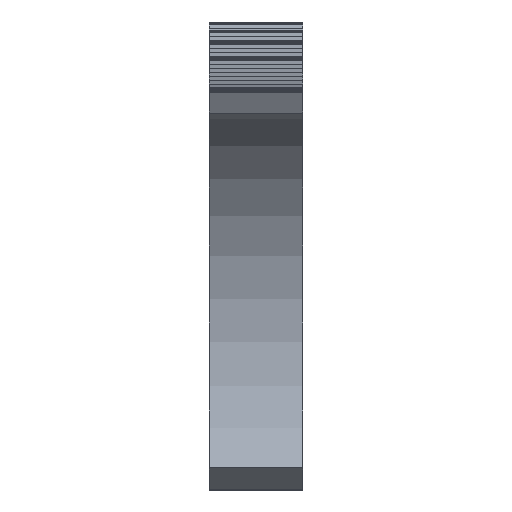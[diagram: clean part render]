
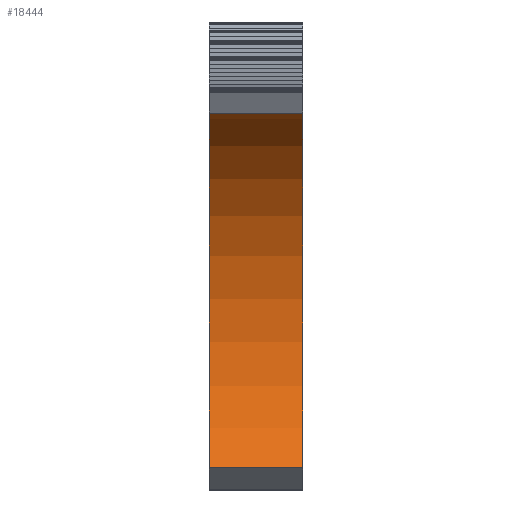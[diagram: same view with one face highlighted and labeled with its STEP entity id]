
A CAD part, front view. The second image highlights one B-rep face of the part: STEP entity #18444.
In plain terms, the highlighted cylindrical face has radius 34 mm (diameter 68 mm), a partial arc.
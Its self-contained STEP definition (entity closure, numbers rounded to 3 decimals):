
#72 = PLANE('',#73);
#73 = AXIS2_PLACEMENT_3D('',#74,#75,#76);
#74 = CARTESIAN_POINT('',(18.5,0.,0.));
#75 = DIRECTION('',(1.,0.,0.));
#76 = DIRECTION('',(0.,1.,0.));
#126 = PLANE('',#127);
#127 = AXIS2_PLACEMENT_3D('',#128,#129,#130);
#128 = CARTESIAN_POINT('',(6.5,0.,0.));
#129 = DIRECTION('',(1.,0.,0.));
#130 = DIRECTION('',(0.,1.,0.));
#11753 = VERTEX_POINT('',#11754);
#11754 = CARTESIAN_POINT('',(18.5,-17.978,28.858));
#11767 = PLANE('',#11768);
#11768 = AXIS2_PLACEMENT_3D('',#11769,#11770,#11771);
#11769 = CARTESIAN_POINT('',(5.5,-25.909,41.59));
#11770 = DIRECTION('',(0.,0.849,0.529));
#11771 = DIRECTION('',(0.,0.529,-0.849));
#11778 = EDGE_CURVE('',#11753,#11779,#11781,.T.);
#11779 = VERTEX_POINT('',#11780);
#11780 = CARTESIAN_POINT('',(18.5,29.717,-16.52));
#11781 = SURFACE_CURVE('',#11782,(#11787,#11798),.PCURVE_S1.);
#11782 = CIRCLE('',#11783,34.);
#11783 = AXIS2_PLACEMENT_3D('',#11784,#11785,#11786);
#11784 = CARTESIAN_POINT('',(18.5,0.,0.));
#11785 = DIRECTION('',(-1.,0.,0.));
#11786 = DIRECTION('',(0.,-0.529,0.849));
#11787 = PCURVE('',#72,#11788);
#11788 = DEFINITIONAL_REPRESENTATION('',(#11789),#11797);
#11789 = ( BOUNDED_CURVE() B_SPLINE_CURVE(2,(#11790,#11791,#11792,#11793
    ,#11794,#11795,#11796),.UNSPECIFIED.,.T.,.F.) 
B_SPLINE_CURVE_WITH_KNOTS((1,2,2,2,2,1),(-2.094,0.,
    2.094,4.189,6.283,8.378),
.UNSPECIFIED.) CURVE() GEOMETRIC_REPRESENTATION_ITEM() 
RATIONAL_B_SPLINE_CURVE((1.,0.5,1.,0.5,1.,0.5,1.)) REPRESENTATION_ITEM(
  '') );
#11790 = CARTESIAN_POINT('',(-17.978,28.858));
#11791 = CARTESIAN_POINT('',(32.006,59.997));
#11792 = CARTESIAN_POINT('',(33.981,1.14));
#11793 = CARTESIAN_POINT('',(35.955,-57.717));
#11794 = CARTESIAN_POINT('',(-16.003,-29.998));
#11795 = CARTESIAN_POINT('',(-67.962,-2.28));
#11796 = CARTESIAN_POINT('',(-17.978,28.858));
#11797 = ( GEOMETRIC_REPRESENTATION_CONTEXT(2) 
PARAMETRIC_REPRESENTATION_CONTEXT() REPRESENTATION_CONTEXT('2D SPACE',''
  ) );
#11798 = PCURVE('',#11799,#11804);
#11799 = CYLINDRICAL_SURFACE('',#11800,34.);
#11800 = AXIS2_PLACEMENT_3D('',#11801,#11802,#11803);
#11801 = CARTESIAN_POINT('',(5.5,0.,0.));
#11802 = DIRECTION('',(-1.,-0.,-0.));
#11803 = DIRECTION('',(0.,1.,0.));
#11804 = DEFINITIONAL_REPRESENTATION('',(#11805),#11809);
#11805 = LINE('',#11806,#11807);
#11806 = CARTESIAN_POINT('',(-8.411,-13.));
#11807 = VECTOR('',#11808,1.);
#11808 = DIRECTION('',(1.,-0.));
#11809 = ( GEOMETRIC_REPRESENTATION_CONTEXT(2) 
PARAMETRIC_REPRESENTATION_CONTEXT() REPRESENTATION_CONTEXT('2D SPACE',''
  ) );
#11826 = PLANE('',#11827);
#11827 = AXIS2_PLACEMENT_3D('',#11828,#11829,#11830);
#11828 = CARTESIAN_POINT('',(5.5,0.,0.));
#11829 = DIRECTION('',(0.,0.486,0.874));
#11830 = DIRECTION('',(0.,0.874,-0.486));
#18405 = VERTEX_POINT('',#18406);
#18406 = CARTESIAN_POINT('',(6.5,29.717,-16.52));
#18425 = EDGE_CURVE('',#11779,#18405,#18426,.T.);
#18426 = SURFACE_CURVE('',#18427,(#18431,#18437),.PCURVE_S1.);
#18427 = LINE('',#18428,#18429);
#18428 = CARTESIAN_POINT('',(5.5,29.717,-16.52));
#18429 = VECTOR('',#18430,1.);
#18430 = DIRECTION('',(-1.,-0.,-0.));
#18431 = PCURVE('',#11826,#18432);
#18432 = DEFINITIONAL_REPRESENTATION('',(#18433),#18436);
#18433 = B_SPLINE_CURVE_WITH_KNOTS('',1,(#18434,#18435),.UNSPECIFIED.,
  .F.,.F.,(2,2),(-14.,0.),
  .PIECEWISE_BEZIER_KNOTS.);
#18434 = CARTESIAN_POINT('',(34.,-14.));
#18435 = CARTESIAN_POINT('',(34.,0.));
#18436 = ( GEOMETRIC_REPRESENTATION_CONTEXT(2) 
PARAMETRIC_REPRESENTATION_CONTEXT() REPRESENTATION_CONTEXT('2D SPACE',''
  ) );
#18437 = PCURVE('',#11799,#18438);
#18438 = DEFINITIONAL_REPRESENTATION('',(#18439),#18442);
#18439 = B_SPLINE_CURVE_WITH_KNOTS('',1,(#18440,#18441),.UNSPECIFIED.,
  .F.,.F.,(2,2),(-13.,-1.),.PIECEWISE_BEZIER_KNOTS.);
#18440 = CARTESIAN_POINT('',(-5.776,-13.));
#18441 = CARTESIAN_POINT('',(-5.776,-1.));
#18442 = ( GEOMETRIC_REPRESENTATION_CONTEXT(2) 
PARAMETRIC_REPRESENTATION_CONTEXT() REPRESENTATION_CONTEXT('2D SPACE',''
  ) );
#18444 = ADVANCED_FACE('',(#18445),#11799,.F.);
#18445 = FACE_BOUND('',#18446,.T.);
#18446 = EDGE_LOOP('',(#18447,#18448,#18469,#18491));
#18447 = ORIENTED_EDGE('',*,*,#11778,.F.);
#18448 = ORIENTED_EDGE('',*,*,#18449,.T.);
#18449 = EDGE_CURVE('',#11753,#18450,#18452,.T.);
#18450 = VERTEX_POINT('',#18451);
#18451 = CARTESIAN_POINT('',(6.5,-17.978,28.858));
#18452 = SURFACE_CURVE('',#18453,(#18457,#18463),.PCURVE_S1.);
#18453 = LINE('',#18454,#18455);
#18454 = CARTESIAN_POINT('',(5.5,-17.978,28.858));
#18455 = VECTOR('',#18456,1.);
#18456 = DIRECTION('',(-1.,-0.,-0.));
#18457 = PCURVE('',#11799,#18458);
#18458 = DEFINITIONAL_REPRESENTATION('',(#18459),#18462);
#18459 = B_SPLINE_CURVE_WITH_KNOTS('',1,(#18460,#18461),.UNSPECIFIED.,
  .F.,.F.,(2,2),(-13.,-1.),.PIECEWISE_BEZIER_KNOTS.);
#18460 = CARTESIAN_POINT('',(-8.411,-13.));
#18461 = CARTESIAN_POINT('',(-8.411,-1.));
#18462 = ( GEOMETRIC_REPRESENTATION_CONTEXT(2) 
PARAMETRIC_REPRESENTATION_CONTEXT() REPRESENTATION_CONTEXT('2D SPACE',''
  ) );
#18463 = PCURVE('',#11767,#18464);
#18464 = DEFINITIONAL_REPRESENTATION('',(#18465),#18468);
#18465 = B_SPLINE_CURVE_WITH_KNOTS('',1,(#18466,#18467),.UNSPECIFIED.,
  .F.,.F.,(2,2),(-14.,0.),
  .PIECEWISE_BEZIER_KNOTS.);
#18466 = CARTESIAN_POINT('',(15.,-14.));
#18467 = CARTESIAN_POINT('',(15.,0.));
#18468 = ( GEOMETRIC_REPRESENTATION_CONTEXT(2) 
PARAMETRIC_REPRESENTATION_CONTEXT() REPRESENTATION_CONTEXT('2D SPACE',''
  ) );
#18469 = ORIENTED_EDGE('',*,*,#18470,.F.);
#18470 = EDGE_CURVE('',#18405,#18450,#18471,.T.);
#18471 = SURFACE_CURVE('',#18472,(#18477,#18484),.PCURVE_S1.);
#18472 = CIRCLE('',#18473,34.);
#18473 = AXIS2_PLACEMENT_3D('',#18474,#18475,#18476);
#18474 = CARTESIAN_POINT('',(6.5,0.,0.));
#18475 = DIRECTION('',(1.,-0.,0.));
#18476 = DIRECTION('',(0.,0.874,-0.486));
#18477 = PCURVE('',#11799,#18478);
#18478 = DEFINITIONAL_REPRESENTATION('',(#18479),#18483);
#18479 = LINE('',#18480,#18481);
#18480 = CARTESIAN_POINT('',(-5.776,-1.));
#18481 = VECTOR('',#18482,1.);
#18482 = DIRECTION('',(-1.,-0.));
#18483 = ( GEOMETRIC_REPRESENTATION_CONTEXT(2) 
PARAMETRIC_REPRESENTATION_CONTEXT() REPRESENTATION_CONTEXT('2D SPACE',''
  ) );
#18484 = PCURVE('',#126,#18485);
#18485 = DEFINITIONAL_REPRESENTATION('',(#18486),#18490);
#18486 = CIRCLE('',#18487,34.);
#18487 = AXIS2_PLACEMENT_2D('',#18488,#18489);
#18488 = CARTESIAN_POINT('',(0.,0.));
#18489 = DIRECTION('',(0.874,-0.486));
#18490 = ( GEOMETRIC_REPRESENTATION_CONTEXT(2) 
PARAMETRIC_REPRESENTATION_CONTEXT() REPRESENTATION_CONTEXT('2D SPACE',''
  ) );
#18491 = ORIENTED_EDGE('',*,*,#18425,.F.);
